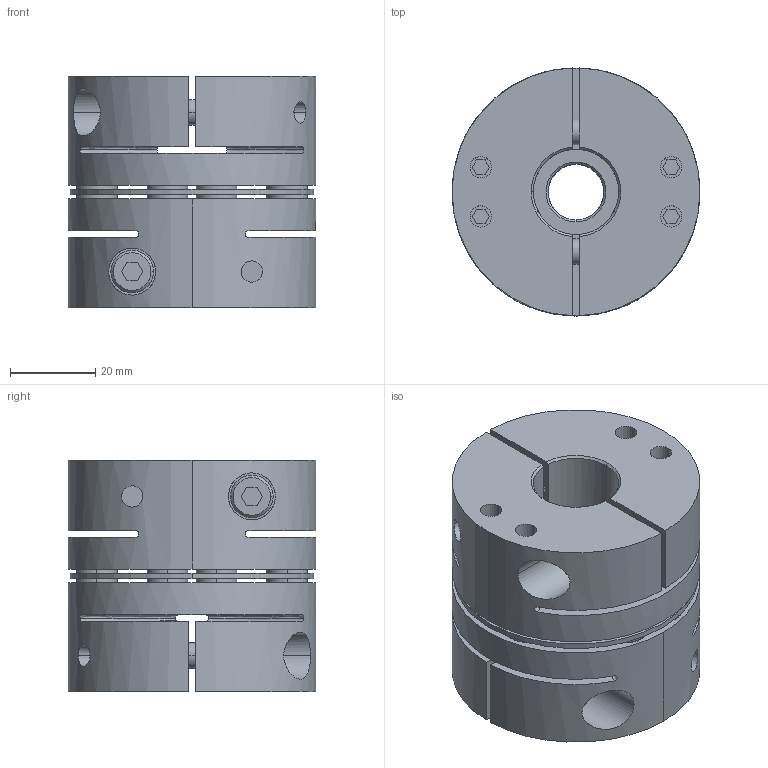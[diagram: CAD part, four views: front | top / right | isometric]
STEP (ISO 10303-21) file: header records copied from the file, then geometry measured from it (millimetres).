
FILE_DESCRIPTION((''),'2;1');
FILE_NAME('TAS-58C-13×20.stp','2022-11-14T21:53:51',(''),(''),'AutoCAD STEP 2000i','AutoCAD 2000i',', , ');
FILE_SCHEMA(('CONFIG_CONTROL_DESIGN'));
Length unit declared in the file: millimetre
Products named in the file (5): TAS-58C-12×12; 忣兜1; TA58C-12-2; CAP-M6×20; TA58C-12
Assembly tree (5 placements, depth 3):
  TAS-58C-12×12
    忣兜1
    TA58C-12-2
      CAP-M6×20
    TA58C-12
      CAP-M6×20
Bounding box: 58 x 58 x 54.25 mm (x, y, z)
Volume: 109398.6 mm3; surface area: 42460.8 mm2
Topology: 1 solids, 1 shells, 360 faces, 893 edges, 611 vertices
Faces by surface type: plane 160, cylinder 148, cone 36, bspline 16
Entity records: 12719 total; most frequent: CARTESIAN_POINT 3805, DIRECTION 1908, ORIENTED_EDGE 1720, EDGE_CURVE 860, AXIS2_PLACEMENT_3D 729, VERTEX_POINT 564, EDGE_LOOP 464, VECTOR 450
